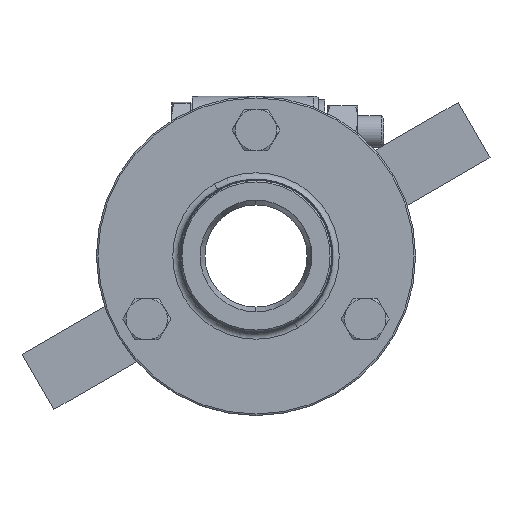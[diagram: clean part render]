
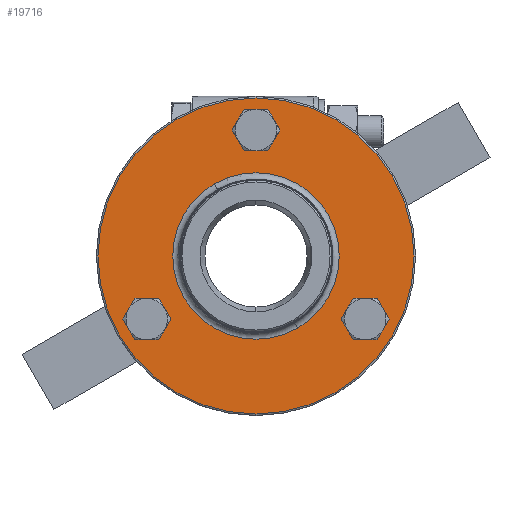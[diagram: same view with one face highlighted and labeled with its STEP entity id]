
A CAD part, front view. The second image highlights one B-rep face of the part: STEP entity #19716.
In plain terms, the highlighted planar face has unit normal (0, -1, 0).
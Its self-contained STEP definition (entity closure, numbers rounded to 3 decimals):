
#187 = CARTESIAN_POINT ( 'NONE',  ( 0., -30., 0. ) ) ;
#189 = DIRECTION ( 'NONE',  ( 0., 1., 0. ) ) ;
#190 = DIRECTION ( 'NONE',  ( 0.5, 0., -0.866 ) ) ;
#251 = CARTESIAN_POINT ( 'NONE',  ( 0., -30., 0. ) ) ;
#253 = DIRECTION ( 'NONE',  ( 0., 1., 0. ) ) ;
#254 = DIRECTION ( 'NONE',  ( 0.5, 0., -0.866 ) ) ;
#351 = CARTESIAN_POINT ( 'NONE',  ( 0., -30., 0. ) ) ;
#352 = DIRECTION ( 'NONE',  ( 0., 1., 0. ) ) ;
#353 = DIRECTION ( 'NONE',  ( 0.5, 0., -0.866 ) ) ;
#354 = CARTESIAN_POINT ( 'NONE',  ( 0., -30., 39.5 ) ) ;
#355 = DIRECTION ( 'NONE',  ( 0., -1., 0. ) ) ;
#356 = DIRECTION ( 'NONE',  ( 1., 0., 0. ) ) ;
#357 = CARTESIAN_POINT ( 'NONE',  ( 34.208, -30., -19.75 ) ) ;
#358 = DIRECTION ( 'NONE',  ( 0., -1., 0. ) ) ;
#360 = DIRECTION ( 'NONE',  ( -0.5, 0., -0.866 ) ) ;
#364 = CARTESIAN_POINT ( 'NONE',  ( -34.208, -30., -19.75 ) ) ;
#365 = DIRECTION ( 'NONE',  ( 0., -1., 0. ) ) ;
#367 = DIRECTION ( 'NONE',  ( -0.5, 0., 0.866 ) ) ;
#5711 = CIRCLE ( 'NONE', #6271, 26.074 ) ;
#5713 = CIRCLE ( 'NONE', #6267, 26.074 ) ;
#5717 = CIRCLE ( 'NONE', #6280, 49.5 ) ;
#5718 = CIRCLE ( 'NONE', #6281, 5.25 ) ;
#5719 = CIRCLE ( 'NONE', #6282, 5.25 ) ;
#5720 = CIRCLE ( 'NONE', #6283, 5.25 ) ;
#6267 = AXIS2_PLACEMENT_3D ( 'NONE', #187, #189, #190 ) ;
#6271 = AXIS2_PLACEMENT_3D ( 'NONE', #251, #253, #254 ) ;
#6280 = AXIS2_PLACEMENT_3D ( 'NONE', #351, #352, #353 ) ;
#6281 = AXIS2_PLACEMENT_3D ( 'NONE', #354, #355, #356 ) ;
#6282 = AXIS2_PLACEMENT_3D ( 'NONE', #357, #358, #360 ) ;
#6283 = AXIS2_PLACEMENT_3D ( 'NONE', #364, #365, #367 ) ;
#15433 = CARTESIAN_POINT ( 'NONE',  ( 2.625, -30., 34.953 ) ) ;
#15434 = CARTESIAN_POINT ( 'NONE',  ( -2.625, -30., 44.047 ) ) ;
#15438 = CARTESIAN_POINT ( 'NONE',  ( 36.833, -30., -24.297 ) ) ;
#15440 = CARTESIAN_POINT ( 'NONE',  ( 31.583, -30., -15.203 ) ) ;
#15442 = CARTESIAN_POINT ( 'NONE',  ( 24.75, -30., -42.868 ) ) ;
#15443 = CARTESIAN_POINT ( 'NONE',  ( -24.75, -30., 42.868 ) ) ;
#15445 = CARTESIAN_POINT ( 'NONE',  ( -31.583, -30., -24.297 ) ) ;
#15446 = CARTESIAN_POINT ( 'NONE',  ( -36.833, -30., -15.203 ) ) ;
#15529 = CARTESIAN_POINT ( 'NONE',  ( 13.037, -30., -22.58 ) ) ;
#15531 = CARTESIAN_POINT ( 'NONE',  ( -13.037, -30., 22.58 ) ) ;
#17882 = CIRCLE ( 'NONE', #18357, 5.25 ) ;
#17885 = CIRCLE ( 'NONE', #18359, 5.25 ) ;
#17891 = CIRCLE ( 'NONE', #18361, 5.25 ) ;
#17900 = CIRCLE ( 'NONE', #18362, 49.5 ) ;
#18357 = AXIS2_PLACEMENT_3D ( 'NONE', #19033, #19034, #19035 ) ;
#18359 = AXIS2_PLACEMENT_3D ( 'NONE', #19043, #19044, #19045 ) ;
#18361 = AXIS2_PLACEMENT_3D ( 'NONE', #19051, #19052, #19053 ) ;
#18362 = AXIS2_PLACEMENT_3D ( 'NONE', #19055, #19056, #19057 ) ;
#19033 = CARTESIAN_POINT ( 'NONE',  ( 0., -30., 39.5 ) ) ;
#19034 = DIRECTION ( 'NONE',  ( 0., -1., 0. ) ) ;
#19035 = DIRECTION ( 'NONE',  ( 1., 0., 0. ) ) ;
#19043 = CARTESIAN_POINT ( 'NONE',  ( 34.208, -30., -19.75 ) ) ;
#19044 = DIRECTION ( 'NONE',  ( 0., -1., 0. ) ) ;
#19045 = DIRECTION ( 'NONE',  ( -0.5, 0., -0.866 ) ) ;
#19051 = CARTESIAN_POINT ( 'NONE',  ( -34.208, -30., -19.75 ) ) ;
#19052 = DIRECTION ( 'NONE',  ( 0., -1., 0. ) ) ;
#19053 = DIRECTION ( 'NONE',  ( -0.5, 0., 0.866 ) ) ;
#19055 = CARTESIAN_POINT ( 'NONE',  ( 0., -30., 0. ) ) ;
#19056 = DIRECTION ( 'NONE',  ( 0., 1., 0. ) ) ;
#19057 = DIRECTION ( 'NONE',  ( 0.5, 0., -0.866 ) ) ;
#19716 = ADVANCED_FACE ( 'NONE', ( #27287, #27284, #27288, #27286, #27285 ), #26443, .T. ) ;
#25600 = AXIS2_PLACEMENT_3D ( 'NONE', #26463, #26464, #26465 ) ;
#26443 = PLANE ( 'NONE',  #25600 ) ;
#26463 = CARTESIAN_POINT ( 'NONE',  ( -42.868, -30., -24.75 ) ) ;
#26464 = DIRECTION ( 'NONE',  ( 0., -1., 0. ) ) ;
#26465 = DIRECTION ( 'NONE',  ( -0.5, 0., 0.866 ) ) ;
#26687 = EDGE_LOOP ( 'NONE', ( #27055, #27056 ) ) ;
#26688 = EDGE_LOOP ( 'NONE', ( #27059, #27060 ) ) ;
#26690 = EDGE_LOOP ( 'NONE', ( #27053, #27054 ) ) ;
#26691 = EDGE_LOOP ( 'NONE', ( #27057, #27058 ) ) ;
#26692 = EDGE_LOOP ( 'NONE', ( #27061, #27062 ) ) ;
#27053 = ORIENTED_EDGE ( 'NONE', *, *, #28959, .F. ) ;
#27054 = ORIENTED_EDGE ( 'NONE', *, *, #35370, .F. ) ;
#27055 = ORIENTED_EDGE ( 'NONE', *, *, #28960, .F. ) ;
#27056 = ORIENTED_EDGE ( 'NONE', *, *, #35377, .F. ) ;
#27057 = ORIENTED_EDGE ( 'NONE', *, *, #28961, .F. ) ;
#27058 = ORIENTED_EDGE ( 'NONE', *, *, #35384, .F. ) ;
#27059 = ORIENTED_EDGE ( 'NONE', *, *, #28946, .T. ) ;
#27060 = ORIENTED_EDGE ( 'NONE', *, *, #28940, .T. ) ;
#27061 = ORIENTED_EDGE ( 'NONE', *, *, #35387, .F. ) ;
#27062 = ORIENTED_EDGE ( 'NONE', *, *, #28958, .F. ) ;
#27284 = FACE_BOUND ( 'NONE', #26687, .T. ) ;
#27285 = FACE_OUTER_BOUND ( 'NONE', #26692, .T. ) ;
#27286 = FACE_BOUND ( 'NONE', #26688, .T. ) ;
#27287 = FACE_BOUND ( 'NONE', #26690, .T. ) ;
#27288 = FACE_BOUND ( 'NONE', #26691, .T. ) ;
#27984 = VERTEX_POINT ( 'NONE', #15433 ) ;
#27985 = VERTEX_POINT ( 'NONE', #15434 ) ;
#27988 = VERTEX_POINT ( 'NONE', #15438 ) ;
#27989 = VERTEX_POINT ( 'NONE', #15440 ) ;
#27990 = VERTEX_POINT ( 'NONE', #15442 ) ;
#27991 = VERTEX_POINT ( 'NONE', #15443 ) ;
#27992 = VERTEX_POINT ( 'NONE', #15445 ) ;
#27993 = VERTEX_POINT ( 'NONE', #15446 ) ;
#28061 = VERTEX_POINT ( 'NONE', #15529 ) ;
#28063 = VERTEX_POINT ( 'NONE', #15531 ) ;
#28940 = EDGE_CURVE ( 'NONE', #28063, #28061, #5713, .T. ) ;
#28946 = EDGE_CURVE ( 'NONE', #28061, #28063, #5711, .T. ) ;
#28958 = EDGE_CURVE ( 'NONE', #27991, #27990, #5717, .T. ) ;
#28959 = EDGE_CURVE ( 'NONE', #27985, #27984, #5718, .T. ) ;
#28960 = EDGE_CURVE ( 'NONE', #27989, #27988, #5719, .T. ) ;
#28961 = EDGE_CURVE ( 'NONE', #27993, #27992, #5720, .T. ) ;
#35370 = EDGE_CURVE ( 'NONE', #27984, #27985, #17882, .T. ) ;
#35377 = EDGE_CURVE ( 'NONE', #27988, #27989, #17885, .T. ) ;
#35384 = EDGE_CURVE ( 'NONE', #27992, #27993, #17891, .T. ) ;
#35387 = EDGE_CURVE ( 'NONE', #27990, #27991, #17900, .T. ) ;
